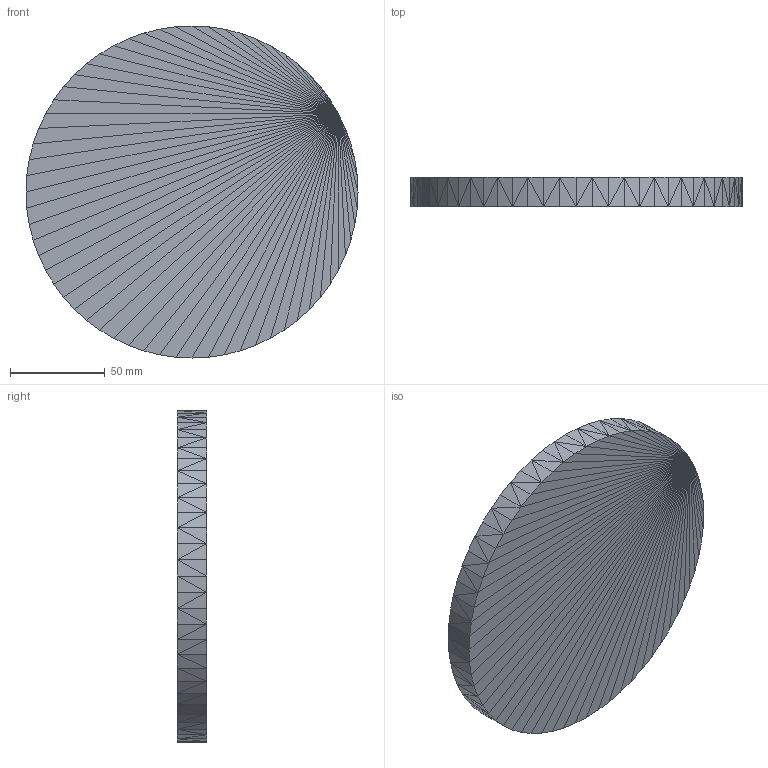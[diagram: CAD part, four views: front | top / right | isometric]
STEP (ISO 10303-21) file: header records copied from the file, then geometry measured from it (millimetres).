
FILE_DESCRIPTION(('Open CASCADE Model'),'2;1');
FILE_NAME('Open CASCADE Shape Model','2026-07-28T00:00:00+00:00',( 'Author'),('Open CASCADE'),'Open CASCADE STEP processor 7.8', 'build123d','Unknown');
FILE_SCHEMA(('AUTOMOTIVE_DESIGN { 1 0 10303 214 1 1 1 1 }'));
Length unit declared in the file: millimetre
Products named in the file (1): SOLID
Bounding box: 175.5 x 15.5 x 175.5 mm (x, y, z)
Volume: 374350.1 mm3; surface area: 56845.7 mm2
Topology: 1 solids, 1 shells, 252 faces, 378 edges, 128 vertices
Faces by surface type: plane 252
Entity records: 9472 total; most frequent: CARTESIAN_POINT 1893, DIRECTION 1262, ORIENTED_EDGE 756, LINE 756, VECTOR 756, PCURVE 756, DEFINITIONAL_REPRESENTATION 756, EDGE_CURVE 378
